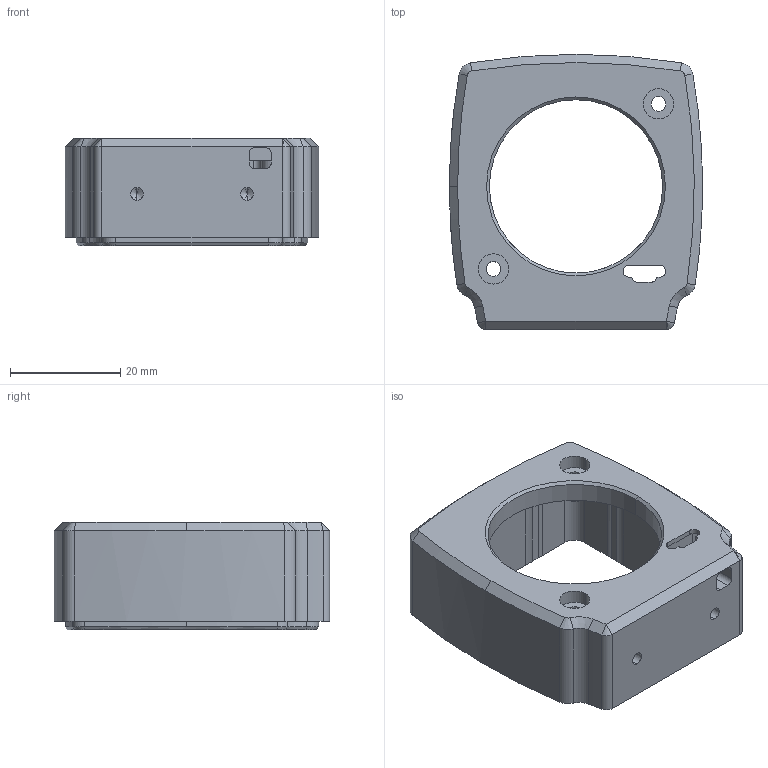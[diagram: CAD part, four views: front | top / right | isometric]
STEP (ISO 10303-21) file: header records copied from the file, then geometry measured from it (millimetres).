
FILE_DESCRIPTION (( 'STEP AP203' ), '1' );
FILE_NAME ('USB3-LE-AF_Frontteil_CS-Mount.STEP', '2019-04-09T14:23:24', ( '' ), ( '' ), 'SwSTEP 2.0', 'SolidWorks 2018', '' );
FILE_SCHEMA (( 'CONFIG_CONTROL_DESIGN' ));
Length unit declared in the file: millimetre
Products named in the file (1): USB3-LE-AF_Frontteil_CS-Mount
Bounding box: 46 x 50 x 19.5 mm (x, y, z)
Volume: 15763 mm3; surface area: 9192.6 mm2
Topology: 1 solids, 1 shells, 194 faces, 507 edges, 311 vertices
Faces by surface type: cylinder 86, plane 63, cone 45
Entity records: 5957 total; most frequent: DIRECTION 1064, CARTESIAN_POINT 1049, ORIENTED_EDGE 990, EDGE_CURVE 495, AXIS2_PLACEMENT_3D 390, VERTEX_POINT 311, VECTOR 284, LINE 284
